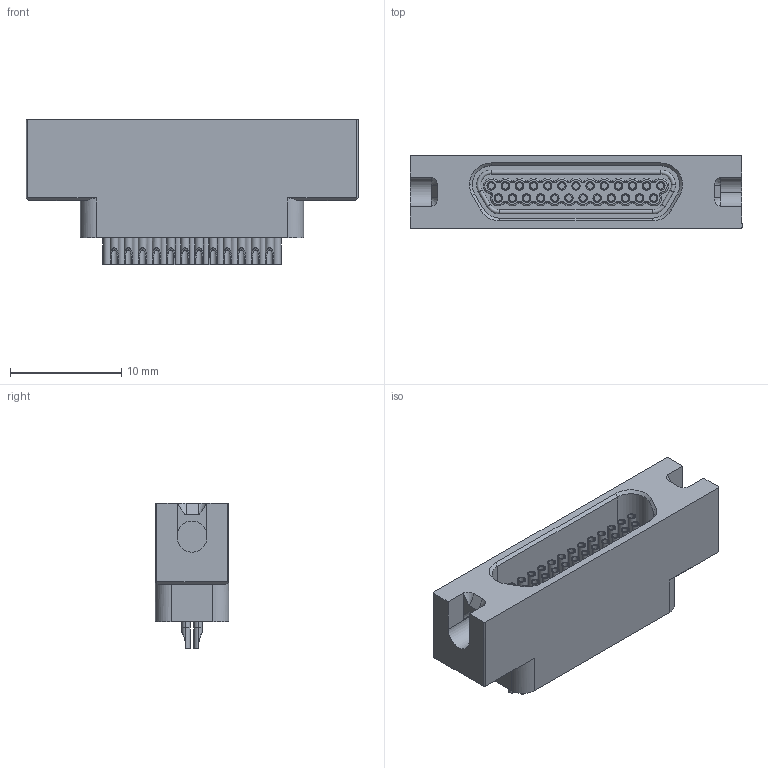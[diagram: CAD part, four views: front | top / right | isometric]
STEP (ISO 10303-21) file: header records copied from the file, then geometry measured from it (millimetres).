
FILE_DESCRIPTION (( 'STEP AP214' ), '1' );
FILE_NAME ('A99080-025 REV A.STEP', '2016-10-14T17:30:01', ( '' ), ( '' ), 'SwSTEP 2.0', 'SolidWorks 2016', '' );
FILE_SCHEMA (( 'AUTOMOTIVE_DESIGN' ));
Length unit declared in the file: inch
Products named in the file (1): A99080-025 REV A
Bounding box: 29.84 x 6.62 x 13.06 mm (x, y, z)
Volume: 1468.8 mm3; surface area: 1865.5 mm2
Topology: 1 solids, 1 shells, 705 faces, 1684 edges, 1022 vertices
Faces by surface type: cylinder 312, plane 228, cone 59, torus 58, bspline 48
Entity records: 23623 total; most frequent: CARTESIAN_POINT 7474, DIRECTION 3427, ORIENTED_EDGE 3268, EDGE_CURVE 1634, AXIS2_PLACEMENT_3D 1297, VERTEX_POINT 1022, VECTOR 833, LINE 833
